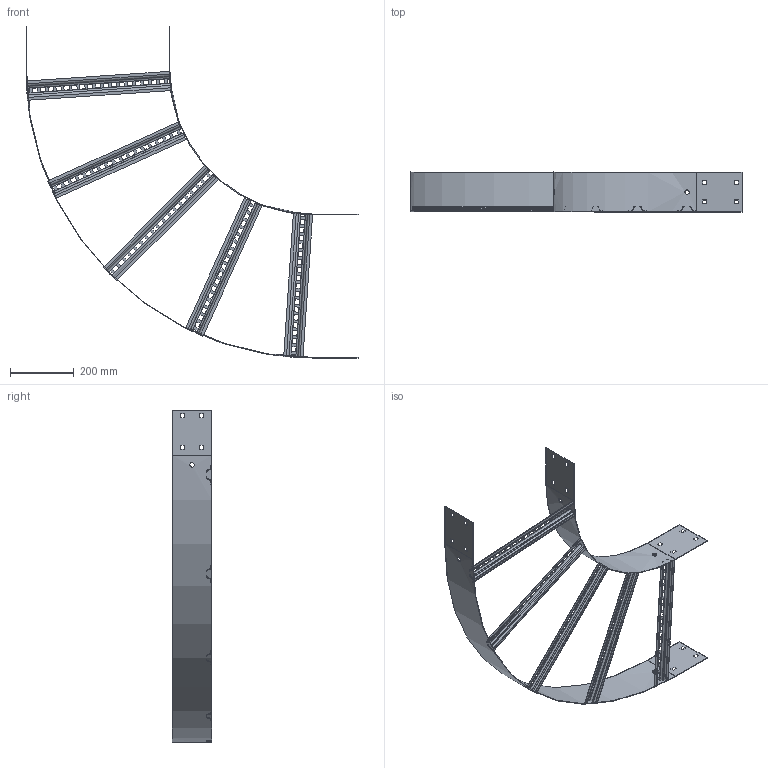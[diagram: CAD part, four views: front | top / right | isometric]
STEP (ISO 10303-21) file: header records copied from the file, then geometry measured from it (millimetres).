
FILE_DESCRIPTION (( 'STEP AP203' ), '1' );
FILE_NAME ('N3 B 4504.STEP', '2021-06-10T21:07:53', ( '' ), ( '' ), 'SwSTEP 2.0', 'SolidWorks 2020', '' );
FILE_SCHEMA (( 'CONFIG_CONTROL_DESIGN' ));
Length unit declared in the file: millimetre
Products named in the file (4): Ladder Rung_Ladder Rung -  450mm; N3 RADIUS PLATE_N1-900; N3 RADIUS PLATE_N1-450 IR; N3 B 4504
Assembly tree (7 placements, depth 2):
  N3 B 4504
    N3 RADIUS PLATE_N1-450 IR
    N3 RADIUS PLATE_N1-900
    Ladder Rung_Ladder Rung -  450mm  x5
Bounding box: 1042.5 x 124 x 1042.5 mm (x, y, z)
Volume: 900722.7 mm3; surface area: 990909.4 mm2
Topology: 7 solids, 7 shells, 670 faces, 1792 edges, 1136 vertices
Faces by surface type: plane 618, cylinder 52
Entity records: 7862 total; most frequent: CARTESIAN_POINT 1852, ORIENTED_EDGE 1152, DIRECTION 1032, EDGE_CURVE 576, LINE 536, VECTOR 536, VERTEX_POINT 368, EDGE_LOOP 288
